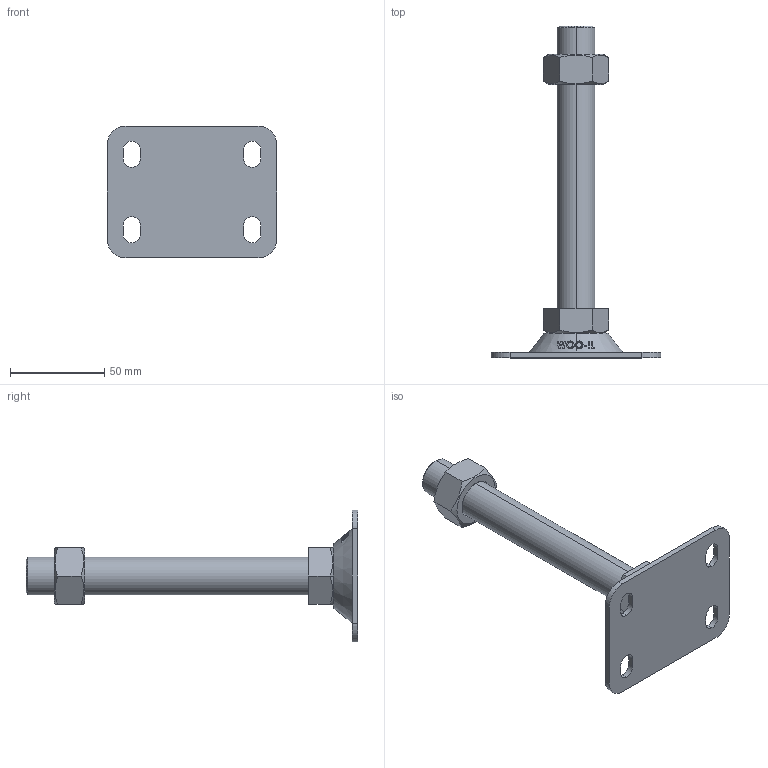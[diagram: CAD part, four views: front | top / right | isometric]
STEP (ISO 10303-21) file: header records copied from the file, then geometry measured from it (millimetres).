
FILE_DESCRIPTION (( 'STEP AP214' ), '1' );
FILE_NAME ('FABL7090-M20-150.step', '2021-03-28T23:52:36', ( '' ), ( '' ), 'SwSTEP 2.0', 'SolidWorks 2019', '' );
FILE_SCHEMA (( 'AUTOMOTIVE_DESIGN' ));
Length unit declared in the file: millimetre
Products named in the file (2): FABL7090-M20-150
Bounding box: 90 x 176 x 70 mm (x, y, z)
Volume: 95772.3 mm3; surface area: 28019.6 mm2
Topology: 2 solids, 2 shells, 146 faces, 388 edges, 256 vertices
Faces by surface type: plane 58, cylinder 48, cone 22, bspline 18
Entity records: 6128 total; most frequent: CARTESIAN_POINT 2680, ORIENTED_EDGE 776, DIRECTION 582, EDGE_CURVE 388, VERTEX_POINT 256, AXIS2_PLACEMENT_3D 210, EDGE_LOOP 166, LINE 162
